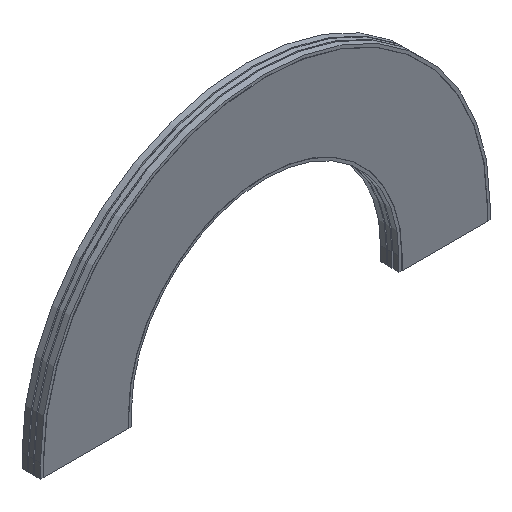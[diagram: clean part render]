
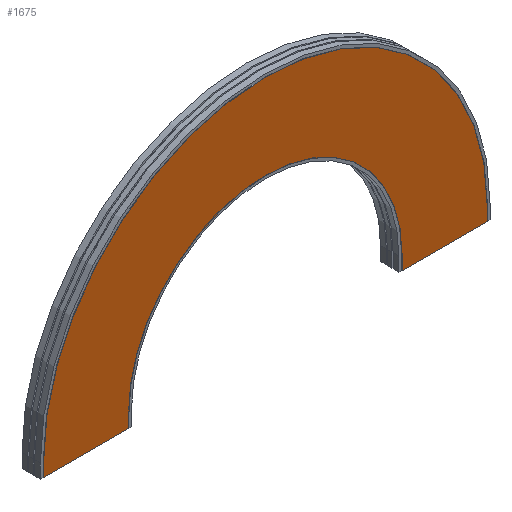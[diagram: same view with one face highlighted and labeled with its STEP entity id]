
A CAD part, isometric view. The second image highlights one B-rep face of the part: STEP entity #1675.
In plain terms, the highlighted planar face has unit normal (0, -1, 0).
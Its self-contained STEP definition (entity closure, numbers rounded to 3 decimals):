
#108 = ORIENTED_EDGE ( 'NONE', *, *, #1846, .T. ) ;
#109 = ORIENTED_EDGE ( 'NONE', *, *, #1845, .F. ) ;
#110 = ORIENTED_EDGE ( 'NONE', *, *, #1844, .F. ) ;
#111 = ORIENTED_EDGE ( 'NONE', *, *, #1837, .T. ) ;
#112 = ORIENTED_EDGE ( 'NONE', *, *, #1843, .T. ) ;
#113 = ORIENTED_EDGE ( 'NONE', *, *, #1842, .F. ) ;
#114 = ORIENTED_EDGE ( 'NONE', *, *, #1841, .F. ) ;
#115 = ORIENTED_EDGE ( 'NONE', *, *, #1840, .F. ) ;
#236 = VERTEX_POINT ( 'NONE', #1782 ) ;
#239 = VERTEX_POINT ( 'NONE', #1777 ) ;
#240 = VERTEX_POINT ( 'NONE', #1776 ) ;
#241 = VERTEX_POINT ( 'NONE', #1775 ) ;
#242 = VERTEX_POINT ( 'NONE', #1774 ) ;
#243 = VERTEX_POINT ( 'NONE', #1773 ) ;
#249 = VERTEX_POINT ( 'NONE', #861 ) ;
#251 = VERTEX_POINT ( 'NONE', #863 ) ;
#432 = DIRECTION ( 'NONE',  ( 0., 0., 1. ) ) ;
#434 = CARTESIAN_POINT ( 'NONE',  ( 0., -68., 0. ) ) ;
#435 = DIRECTION ( 'NONE',  ( 0., 1., 0. ) ) ;
#436 = DIRECTION ( 'NONE',  ( -1., 0., 0. ) ) ;
#439 = CARTESIAN_POINT ( 'NONE',  ( 0., -68., -100. ) ) ;
#440 = CARTESIAN_POINT ( 'NONE',  ( 0., -68., -100. ) ) ;
#441 = CARTESIAN_POINT ( 'NONE',  ( -1584.8, -68., -100. ) ) ;
#442 = CARTESIAN_POINT ( 'NONE',  ( 0., -68., 0. ) ) ;
#443 = DIRECTION ( 'NONE',  ( 0., 1., 0. ) ) ;
#444 = DIRECTION ( 'NONE',  ( -1., 0., 0. ) ) ;
#445 = DIRECTION ( 'NONE',  ( -1., 0., 0. ) ) ;
#446 = CARTESIAN_POINT ( 'NONE',  ( -975.2, -68., -100. ) ) ;
#447 = DIRECTION ( 'NONE',  ( 0., 0., 1. ) ) ;
#448 = CARTESIAN_POINT ( 'NONE',  ( 975.2, -68., -100. ) ) ;
#450 = DIRECTION ( 'NONE',  ( 0., 0., 1. ) ) ;
#451 = DIRECTION ( 'NONE',  ( -1., 0., 0. ) ) ;
#452 = CARTESIAN_POINT ( 'NONE',  ( 1584.8, -68., -100. ) ) ;
#453 = DIRECTION ( 'NONE',  ( 0., 0., 1. ) ) ;
#592 = FACE_OUTER_BOUND ( 'NONE', #1483, .T. ) ;
#703 = CIRCLE ( 'NONE', #841, 975.2 ) ;
#705 = LINE ( 'NONE', #441, #712 ) ;
#708 = CIRCLE ( 'NONE', #842, 1584.8 ) ;
#710 = LINE ( 'NONE', #439, #714 ) ;
#711 = LINE ( 'NONE', #440, #720 ) ;
#712 = VECTOR ( 'NONE', #432, 1000. ) ;
#713 = LINE ( 'NONE', #446, #716 ) ;
#714 = VECTOR ( 'NONE', #445, 1000. ) ;
#715 = LINE ( 'NONE', #448, #718 ) ;
#716 = VECTOR ( 'NONE', #447, 1000. ) ;
#718 = VECTOR ( 'NONE', #450, 1000. ) ;
#719 = LINE ( 'NONE', #452, #722 ) ;
#720 = VECTOR ( 'NONE', #451, 1000. ) ;
#722 = VECTOR ( 'NONE', #453, 1000. ) ;
#804 = AXIS2_PLACEMENT_3D ( 'NONE', #1178, #1182, #1183 ) ;
#841 = AXIS2_PLACEMENT_3D ( 'NONE', #434, #435, #436 ) ;
#842 = AXIS2_PLACEMENT_3D ( 'NONE', #442, #443, #444 ) ;
#861 = CARTESIAN_POINT ( 'NONE',  ( 1584.8, -68., 0. ) ) ;
#863 = CARTESIAN_POINT ( 'NONE',  ( -975.2, -68., 0. ) ) ;
#1178 = CARTESIAN_POINT ( 'NONE',  ( -975.2, -68., 0. ) ) ;
#1180 = PLANE ( 'NONE',  #804 ) ;
#1182 = DIRECTION ( 'NONE',  ( 0., 1., 0. ) ) ;
#1183 = DIRECTION ( 'NONE',  ( -1., 0., 0. ) ) ;
#1483 = EDGE_LOOP ( 'NONE', ( #115, #114, #113, #112, #111, #110, #109, #108 ) ) ;
#1675 = ADVANCED_FACE ( 'NONE', ( #592 ), #1180, .F. ) ;
#1773 = CARTESIAN_POINT ( 'NONE',  ( 975.2, -68., 0. ) ) ;
#1774 = CARTESIAN_POINT ( 'NONE',  ( 975.2, -68., -100. ) ) ;
#1775 = CARTESIAN_POINT ( 'NONE',  ( -1584.8, -68., -100. ) ) ;
#1776 = CARTESIAN_POINT ( 'NONE',  ( -1584.8, -68., 0. ) ) ;
#1777 = CARTESIAN_POINT ( 'NONE',  ( -975.2, -68., -100. ) ) ;
#1782 = CARTESIAN_POINT ( 'NONE',  ( 1584.8, -68., -100. ) ) ;
#1837 = EDGE_CURVE ( 'NONE', #251, #243, #703, .T. ) ;
#1840 = EDGE_CURVE ( 'NONE', #240, #249, #708, .T. ) ;
#1841 = EDGE_CURVE ( 'NONE', #241, #240, #705, .T. ) ;
#1842 = EDGE_CURVE ( 'NONE', #239, #241, #710, .T. ) ;
#1843 = EDGE_CURVE ( 'NONE', #239, #251, #713, .T. ) ;
#1844 = EDGE_CURVE ( 'NONE', #242, #243, #715, .T. ) ;
#1845 = EDGE_CURVE ( 'NONE', #236, #242, #711, .T. ) ;
#1846 = EDGE_CURVE ( 'NONE', #236, #249, #719, .T. ) ;
